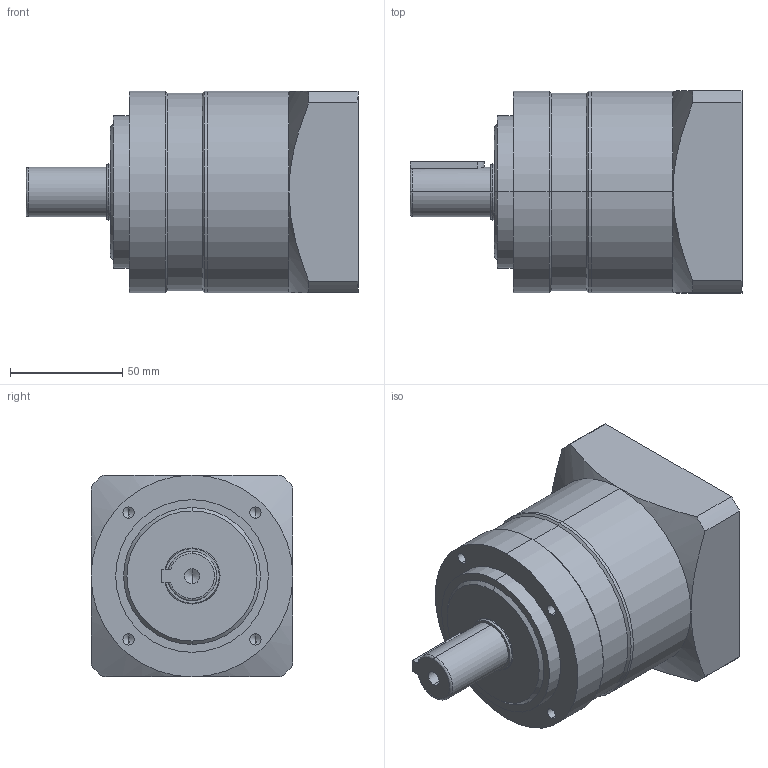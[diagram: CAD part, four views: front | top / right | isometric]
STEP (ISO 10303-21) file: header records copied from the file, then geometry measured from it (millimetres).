
FILE_DESCRIPTION (( 'STEP AP203' ), '1' );
FILE_NAME ('TL-090-L1-19-70-90-M6.STEP', '2025-06-05T03:27:00', ( 'Microsoft' ), ( 'Microsoft' ), 'SwSTEP 2.0', 'SolidWorks 2016', '' );
FILE_SCHEMA (( 'CONFIG_CONTROL_DESIGN' ));
Length unit declared in the file: millimetre
Products named in the file (1): TL-090-L1-19-70-90-M6
Bounding box: 148 x 90 x 90 mm (x, y, z)
Volume: 665491.9 mm3; surface area: 75622.9 mm2
Topology: 3 solids, 3 shells, 102 faces, 227 edges, 129 vertices
Faces by surface type: cylinder 45, cone 30, plane 20, bspline 7
Entity records: 3126 total; most frequent: CARTESIAN_POINT 874, DIRECTION 487, ORIENTED_EDGE 418, EDGE_CURVE 209, AXIS2_PLACEMENT_3D 200, VERTEX_POINT 129, EDGE_LOOP 118, CIRCLE 104
